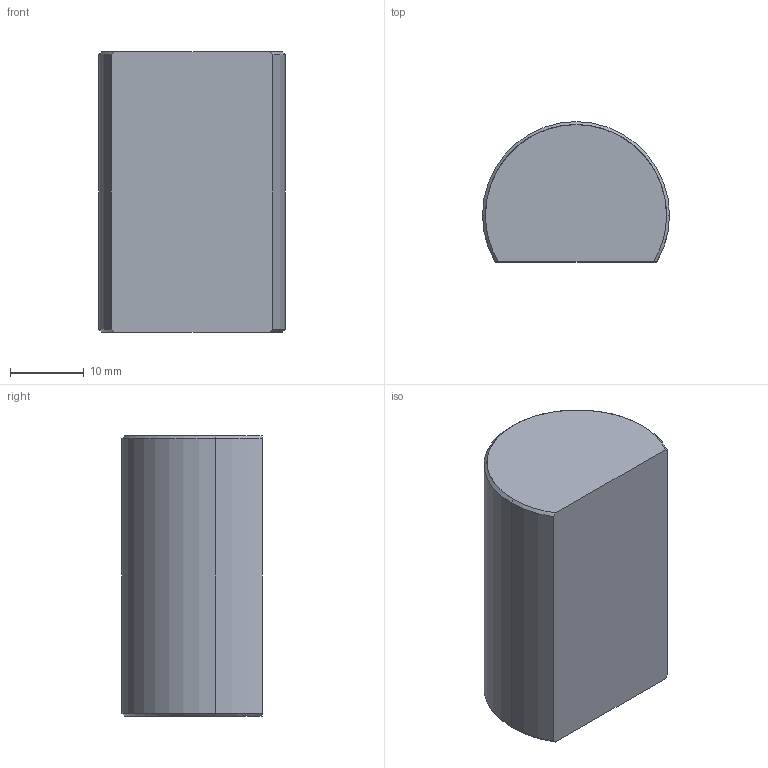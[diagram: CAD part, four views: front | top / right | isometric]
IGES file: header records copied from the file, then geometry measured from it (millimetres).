
Start section: SolidWorks IGES file using analytic representation for surfaces
Global section: file name: D:\Solid_parts\MECHeDESIGN\Bal-Tec\Catalog 105-A\Distribution\IGES\100-TC.IGS; native system: SolidWorks 2005 by SolidWorks Corporation; preprocessor: SolidWorks 2005 by SolidWorks Corporation; author: rvillegas; date: 061205.191101; units: inch
Bounding box: 25.4 x 19.05 x 38.1 mm (x, y, z)
Surface area: 3654.3 mm2 (no closed solid volume)
Topology: 0 solids, 0 shells, 12 faces, 94 edges, 94 vertices
Faces by surface type: revolution 9, bspline 3
